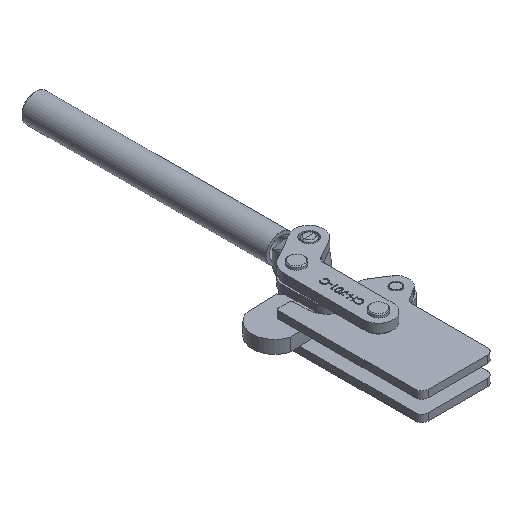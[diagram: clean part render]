
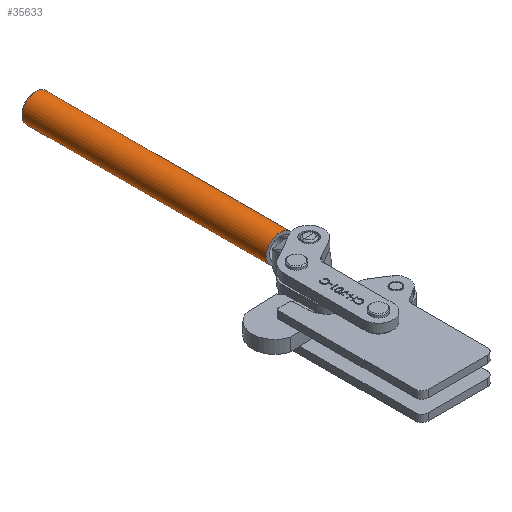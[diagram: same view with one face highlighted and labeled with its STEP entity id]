
A CAD part, isometric view. The second image highlights one B-rep face of the part: STEP entity #35633.
In plain terms, the highlighted cylindrical face has radius 8.65 mm (diameter 17.3 mm), a full revolution.
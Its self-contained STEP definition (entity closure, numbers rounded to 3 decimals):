
#4075=FACE_OUTER_BOUND('',#6045,.T.);
#6045=EDGE_LOOP('',(#31499,#31500,#31501,#31502,#31503,#31504));
#8668=LINE('',#72330,#11441);
#11441=VECTOR('',#47453,8.65);
#13270=CIRCLE('',#38974,8.65);
#13271=CIRCLE('',#38975,8.65);
#13274=CIRCLE('',#38980,8.65);
#13275=CIRCLE('',#38981,8.65);
#16545=VERTEX_POINT('',#72317);
#16546=VERTEX_POINT('',#72318);
#16549=VERTEX_POINT('',#72329);
#16550=VERTEX_POINT('',#72331);
#21639=EDGE_CURVE('',#16545,#16546,#13270,.T.);
#21640=EDGE_CURVE('',#16546,#16545,#13271,.T.);
#21645=EDGE_CURVE('',#16545,#16549,#8668,.T.);
#21646=EDGE_CURVE('',#16550,#16549,#13274,.T.);
#21647=EDGE_CURVE('',#16549,#16550,#13275,.T.);
#31499=ORIENTED_EDGE('',*,*,#21639,.T.);
#31500=ORIENTED_EDGE('',*,*,#21640,.T.);
#31501=ORIENTED_EDGE('',*,*,#21645,.T.);
#31502=ORIENTED_EDGE('',*,*,#21646,.F.);
#31503=ORIENTED_EDGE('',*,*,#21647,.F.);
#31504=ORIENTED_EDGE('',*,*,#21645,.F.);
#33984=CYLINDRICAL_SURFACE('',#38979,8.65);
#35633=ADVANCED_FACE('',(#4075),#33984,.T.);
#38974=AXIS2_PLACEMENT_3D('',#72319,#47439,#47440);
#38975=AXIS2_PLACEMENT_3D('',#72320,#47441,#47442);
#38979=AXIS2_PLACEMENT_3D('',#72328,#47451,#47452);
#38980=AXIS2_PLACEMENT_3D('',#72332,#47454,#47455);
#38981=AXIS2_PLACEMENT_3D('',#72333,#47456,#47457);
#47439=DIRECTION('center_axis',(0.,1.,0.));
#47440=DIRECTION('ref_axis',(0.,0.,1.));
#47441=DIRECTION('center_axis',(0.,1.,0.));
#47442=DIRECTION('ref_axis',(0.,0.,1.));
#47451=DIRECTION('center_axis',(0.,-1.,0.));
#47452=DIRECTION('ref_axis',(0.,0.,-1.));
#47453=DIRECTION('',(0.,1.,0.));
#47454=DIRECTION('center_axis',(0.,1.,0.));
#47455=DIRECTION('ref_axis',(0.,0.,1.));
#47456=DIRECTION('center_axis',(0.,1.,0.));
#47457=DIRECTION('ref_axis',(0.,0.,1.));
#72317=CARTESIAN_POINT('',(30.275,-169.4,8.65));
#72318=CARTESIAN_POINT('',(30.275,-169.4,-8.65));
#72319=CARTESIAN_POINT('Origin',(30.275,-169.4,0.));
#72320=CARTESIAN_POINT('Origin',(30.275,-169.4,0.));
#72328=CARTESIAN_POINT('Origin',(30.275,-18.,0.));
#72329=CARTESIAN_POINT('',(30.275,-18.,8.65));
#72330=CARTESIAN_POINT('',(30.275,-18.,8.65));
#72331=CARTESIAN_POINT('',(30.275,-18.,-8.65));
#72332=CARTESIAN_POINT('Origin',(30.275,-18.,0.));
#72333=CARTESIAN_POINT('Origin',(30.275,-18.,0.));
